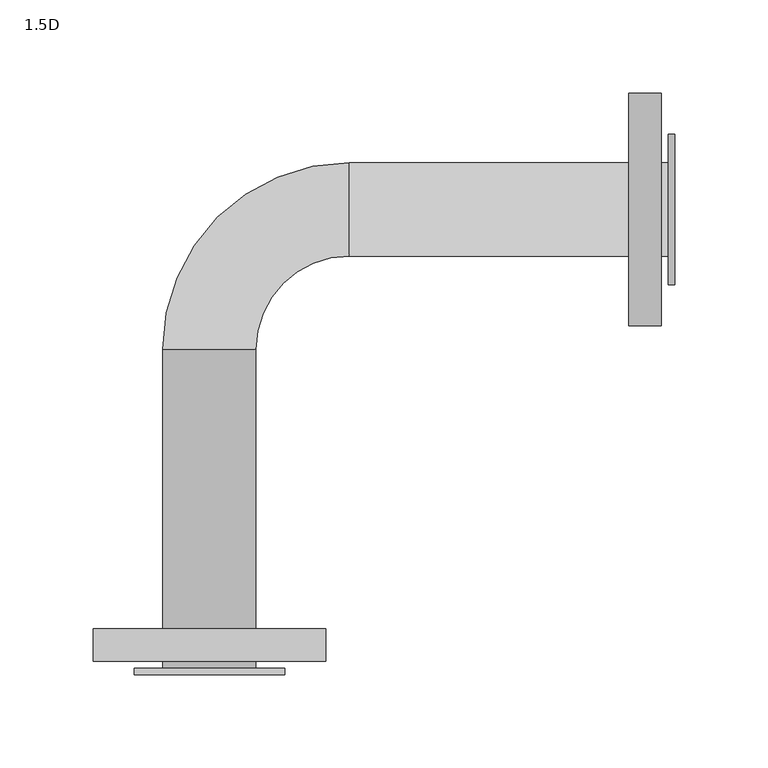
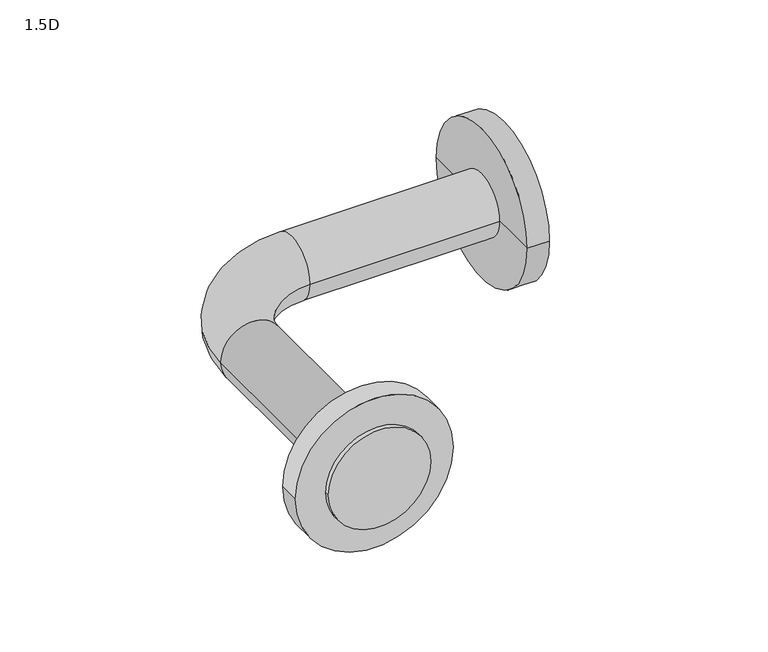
"""IFC4 building model written with IfcOpenShell, lengths in millimetres: pipe fitting geometry, Plumbing-Pipe-Fittings_Pexgol_Elbow-90-with-both-sides-flared_ends : 1.5D."""

from ifc_helpers import new_model, si_unit, point, frame, origin, origin_2d, place, context, project, spatial, circle_curve, ellipse_curve, trimmed, segment, composite_curve, outline, extrude, source, transform, mapped, element, save
from ifc_brep_helpers import plane_surface, cylinder_surface, revolved_surface, advanced_brep


def pipe_fitting_1_5d_0310e5e9(model_context):
    return source(origin(), model_context, "Body", "SolidModel", [
        advanced_brep(
        [(225.3, -62.5, 0.0), (225.3, 62.5, 0.0), (242.8, 62.5, 0.0), (242.8, -62.5, 0.0), (225.3, 0.0, 0.0), (242.8, 0.0, 0.0)],
        [
            (0, 1, circle_curve(frame((225.3, 0.0, 0.0), z_axis=(1.0, 0.0, 0.0), x_axis=(0.0, 1.0, 0.0)), 62.5)),
            (1, 2),
            (2, 3, circle_curve(frame((242.8, 0.0, 0.0), z_axis=(-1.0, 0.0, 0.0), x_axis=(0.0, 1.0, 0.0)), 62.5)),
            (3, 0),
            (1, 0, circle_curve(frame((225.3, 0.0, 0.0), z_axis=(1.0, 0.0, 0.0), x_axis=(0.0, 1.0, 0.0)), 62.5)),
            (3, 2, circle_curve(frame((242.8, 0.0, 0.0), z_axis=(-1.0, 0.0, 0.0), x_axis=(0.0, 1.0, 0.0)), 62.5)),
            (4, 1),
            (0, 4),
            (2, 5),
            (5, 3),
        ],
        [
            cylinder_surface(frame((-15.0, 0.0, 0.0), z_axis=(-1.0, 0.0, 0.0), x_axis=(0.0, 1.0, 0.0)), 62.5),
            plane_surface(frame((225.3, 0.0, 0.0), z_axis=(-1.0, 0.0, 0.0), x_axis=(0.0, 1.0, 0.0))),
            plane_surface(frame((242.8, 0.0, 0.0), z_axis=(1.0, 0.0, 0.0), x_axis=(0.0, 1.0, 0.0))),
        ],
        [
            (0, [[1, 2, 3, 4]]),
            (0, [[5, -4, 6, -2]]),
            (1, [[7, -1, 8]]),
            (1, [[-8, -5, -7]]),
            (2, [[-3, 9, 10]]),
            (2, [[-6, -10, -9]]),
        ],
    ),
        extrude(outline(composite_curve([segment(trimmed(circle_curve(origin_2d(), 62.5), [point((0.0, -62.5))], [point((0.0, 62.5))], False, "CARTESIAN"), True, "CONTINUOUS"), segment(trimmed(circle_curve(origin_2d(), 62.5), [point((0.0, 62.5))], [point((0.0, -62.5))], False, "CARTESIAN"), True, "CONTINUOUS")], self_intersect=False)), frame((0.0, -242.8, 0.0), z_axis=(0.0, 1.0, 0.0), x_axis=(0.0, 0.0, 1.0)), (0.0, 0.0, 1.0), 17.5),
        advanced_brep(
        [(250.0, -40.5, 0.0), (250.0, 40.5, 0.0), (75.0, 25.0, 0.0), (75.0, -25.0, 0.0), (246.4, -25.0, 0.0), (246.4, 25.0, 0.0), (-25.0, -75.0, 0.0), (25.0, -75.0, 0.0), (-40.5, -250.0, 0.0), (40.5, -250.0, 0.0), (-25.0, -246.4, 0.0), (25.0, -246.4, 0.0), (-40.5, -246.4, 0.0), (40.5, -246.4, 0.0), (246.4, -40.5, 0.0), (246.4, 40.5, 0.0)],
        [
            (0, 1, circle_curve(frame((250.0, 0.0, 0.0), z_axis=(1.0, 0.0, 0.0), x_axis=(0.0, 1.0, 0.0)), 40.5)),
            (1, 0, circle_curve(frame((250.0, 0.0, 0.0), z_axis=(1.0, 0.0, 0.0), x_axis=(0.0, 1.0, 0.0)), 40.5)),
            (2, 3, circle_curve(frame((75.0, 0.0, 0.0), z_axis=(1.0, 0.0, 0.0), x_axis=(0.0, -1.0, 0.0)), 25.0)),
            (3, 4),
            (4, 5, circle_curve(frame((246.4, 0.0, 0.0), z_axis=(-1.0, 0.0, 0.0), x_axis=(0.0, -1.0, 0.0)), 25.0)),
            (5, 2),
            (3, 2, circle_curve(frame((75.0, 0.0, 0.0), z_axis=(1.0, 0.0, 0.0), x_axis=(0.0, -1.0, 0.0)), 25.0)),
            (5, 4, circle_curve(frame((246.4, 0.0, 0.0), z_axis=(-1.0, 0.0, 0.0), x_axis=(0.0, -1.0, 0.0)), 25.0)),
            (2, 6, circle_curve(frame((75.0, -75.0, 0.0), z_axis=(0.0, 0.0, 1.0), x_axis=(0.0, 1.0, 0.0)), 100.0)),
            (6, 7, circle_curve(frame((0.0, -75.0, 0.0), z_axis=(0.0, 1.0, 0.0), x_axis=(1.0, 0.0, 0.0)), 25.0)),
            (7, 3, circle_curve(frame((75.0, -75.0, 0.0), z_axis=(0.0, 0.0, -1.0), x_axis=(0.0, 1.0, 0.0)), 50.0)),
            (7, 6, circle_curve(frame((0.0, -75.0, 0.0), z_axis=(0.0, 1.0, 0.0), x_axis=(1.0, 0.0, 0.0)), 25.0)),
            (8, 9, circle_curve(frame((0.0, -250.0, 0.0), z_axis=(0.0, -1.0, 0.0), x_axis=(1.0, 0.0, 0.0)), 40.5)),
            (9, 8, circle_curve(frame((0.0, -250.0, 0.0), z_axis=(0.0, -1.0, 0.0), x_axis=(1.0, 0.0, 0.0)), 40.5)),
            (6, 10),
            (10, 11, circle_curve(frame((0.0, -246.4, 0.0), z_axis=(0.0, 1.0, 0.0), x_axis=(1.0, 0.0, 0.0)), 25.0)),
            (11, 7),
            (11, 10, circle_curve(frame((0.0, -246.4, 0.0), z_axis=(0.0, 1.0, 0.0), x_axis=(1.0, 0.0, 0.0)), 25.0)),
            (12, 13, circle_curve(frame((0.0, -246.4, 0.0), z_axis=(0.0, 1.0, 0.0), x_axis=(1.0, 0.0, 0.0)), 40.5)),
            (13, 12, circle_curve(frame((0.0, -246.4, 0.0), z_axis=(0.0, 1.0, 0.0), x_axis=(1.0, 0.0, 0.0)), 40.5)),
            (8, 12),
            (13, 9),
            (14, 15, circle_curve(frame((246.4, 0.0, 0.0), z_axis=(1.0, 0.0, 0.0), x_axis=(0.0, 1.0, 0.0)), 40.5)),
            (15, 1),
            (0, 14),
            (15, 14, circle_curve(frame((246.4, 0.0, 0.0), z_axis=(1.0, 0.0, 0.0), x_axis=(0.0, 1.0, 0.0)), 40.5)),
            (14, 4),
            (5, 15),
        ],
        [
            plane_surface(frame((250.0, 0.0, 0.0), z_axis=(1.0, 0.0, 0.0), x_axis=(0.0, 0.0, 1.0))),
            cylinder_surface(frame((250.0, 0.0, 0.0), z_axis=(1.0, 0.0, 0.0), x_axis=(0.0, -1.0, 0.0)), 25.0),
            revolved_surface(trimmed(ellipse_curve(frame((75.0, 0.0, 0.0), z_axis=(1.0, 0.0, 0.0), x_axis=(0.0, -1.0, 0.0)), 25.0, 25.0), [point((75.0, 25.0, 0.0))], [point((75.0, -25.0, 0.0))], True, "CARTESIAN"), (75.0, -75.0, 0.0), (0.0, 0.0, 1.0)),
            revolved_surface(trimmed(ellipse_curve(frame((75.0, 0.0, 0.0), z_axis=(1.0, 0.0, 0.0), x_axis=(0.0, -1.0, 0.0)), 25.0, 25.0), [point((75.0, -25.0, 0.0))], [point((75.0, 25.0, 0.0))], True, "CARTESIAN"), (75.0, -75.0, 0.0), (0.0, 0.0, 1.0)),
            plane_surface(frame((0.0, -250.0, 0.0), z_axis=(0.0, -1.0, 0.0), x_axis=(0.0, 0.0, 1.0))),
            cylinder_surface(frame((0.0, -75.0, 0.0), z_axis=(0.0, 1.0, 0.0), x_axis=(1.0, 0.0, 0.0)), 25.0),
            plane_surface(frame((40.5, -246.4, 0.0), z_axis=(0.0, 1.0, 0.0), x_axis=(0.0, 0.0, -1.0))),
            cylinder_surface(frame((0.0, -246.4, 0.0), z_axis=(0.0, -1.0, 0.0), x_axis=(1.0, 0.0, 0.0)), 40.5),
            cylinder_surface(frame((0.0, 0.0, 0.0), z_axis=(-1.0, 0.0, 0.0), x_axis=(0.0, 1.0, 0.0)), 40.5),
            plane_surface(frame((246.4, 0.0, 0.0), z_axis=(-1.0, 0.0, 0.0), x_axis=(0.0, 1.0, 0.0))),
        ],
        [
            (0, [[1, 2]]),
            (1, [[3, 4, 5, 6]]),
            (1, [[7, -6, 8, -4]]),
            (2, [[-3, 9, 10, 11]]),
            (3, [[-7, -11, 12, -9]]),
            (4, [[13, 14]]),
            (5, [[-10, 15, 16, 17]]),
            (5, [[-12, -17, 18, -15]]),
            (6, [[19, 20], [-16, -18]]),
            (7, [[-13, 21, -20, 22]]),
            (7, [[-14, -22, -19, -21]]),
            (8, [[23, 24, -1, 25]]),
            (8, [[-24, 26, -25, -2]]),
            (9, [[-23, 27, -8, 28]]),
            (9, [[-26, -28, -5, -27]]),
        ],
    ),
    ])


if __name__ == "__main__":
    model = new_model("IFC4")
    model_context = context("Model", 3, world=origin())
    ifc_project = project(units=[si_unit("LENGTHUNIT", "METRE", prefix="MILLI")], contexts=[model_context])
    site = spatial("IfcSite", under=ifc_project)
    building = spatial("IfcBuilding", under=site)
    placement = place(None, origin())
    pipe_fitting_1_5d_shape = pipe_fitting_1_5d_0310e5e9(model_context)
    element("IfcPipeFitting", 1, ObjectType="Plumbing-Pipe-Fittings_Pexgol_Elbow-90-with-both-sides-flared_ends : 1.5D", at=placement, inside=building, context=model_context, shape_type="MappedRepresentation", body=[
        mapped(pipe_fitting_1_5d_shape, transform((0.0, 0.0, 0.0), x_axis=(1.0, 0.0, 0.0), y_axis=(0.0, 1.0, 0.0), z_axis=(0.0, 0.0, 1.0))),
    ])
    save(model, "model.ifc")
